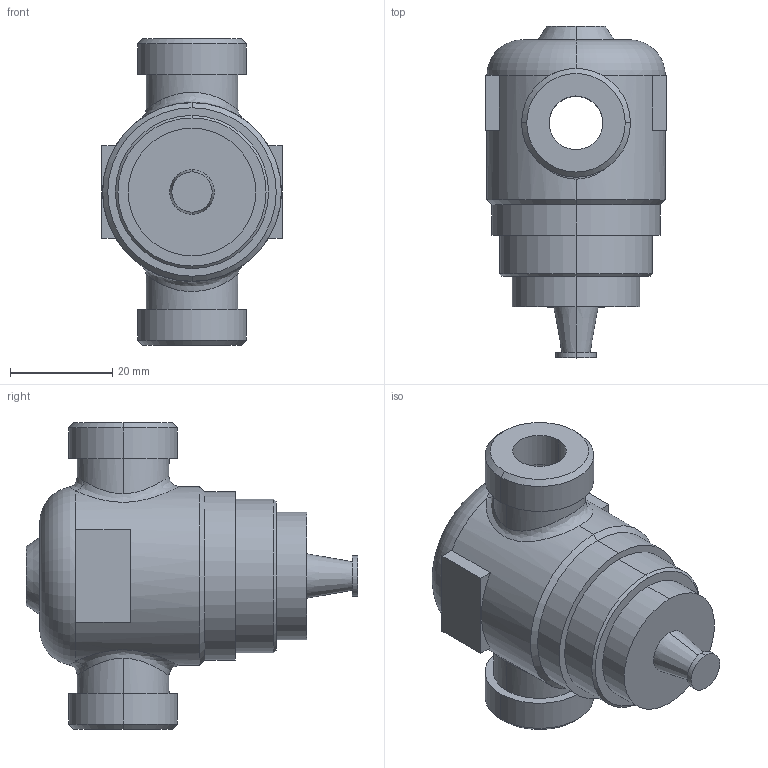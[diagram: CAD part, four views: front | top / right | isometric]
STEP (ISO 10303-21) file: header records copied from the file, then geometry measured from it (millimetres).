
FILE_DESCRIPTION((''),'2;1');
FILE_NAME('000430.dwg.stp','2006-10-04T11:29:48',(''),(''),'Mechanical Desktop 2006','Mechanical Desktop 2006',', , ');
FILE_SCHEMA(('AUTOMOTIVE_DESIGN { 1 2 10303 214 0 1 1 1 }'));
Length unit declared in the file: millimetre
Products named in the file (1): Product
Bounding box: 35.36 x 65 x 60 mm (x, y, z)
Volume: 47750.9 mm3; surface area: 14344.4 mm2
Topology: 7 solids, 7 shells, 69 faces, 147 edges, 93 vertices
Faces by surface type: plane 24, cylinder 22, cone 12, bspline 9, torus 2
Entity records: 2659 total; most frequent: CARTESIAN_POINT 1111, DIRECTION 318, ORIENTED_EDGE 294, EDGE_CURVE 147, AXIS2_PLACEMENT_3D 131, VERTEX_POINT 93, EDGE_LOOP 76, CIRCLE 70
